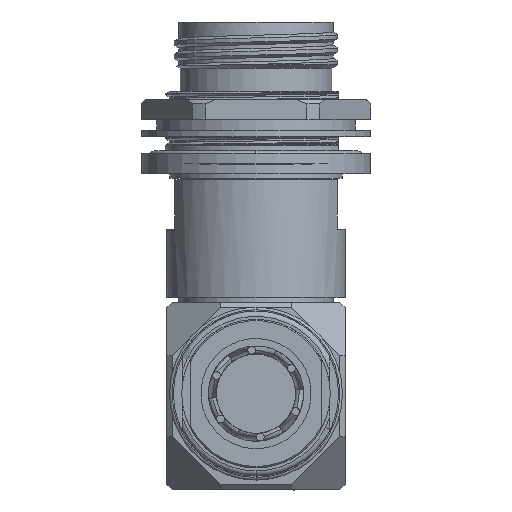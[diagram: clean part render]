
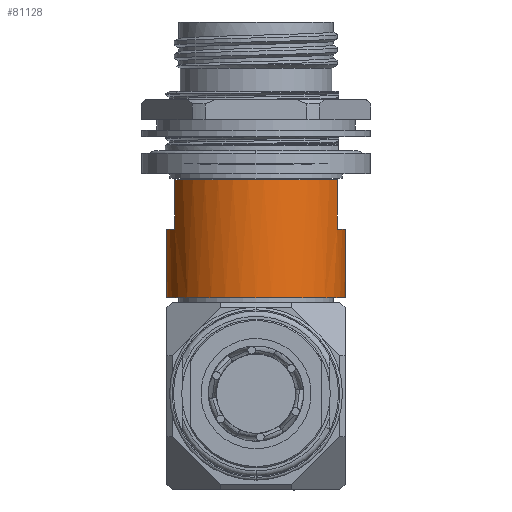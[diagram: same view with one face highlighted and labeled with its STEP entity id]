
A CAD part, front view. The second image highlights one B-rep face of the part: STEP entity #81128.
In plain terms, the highlighted cylindrical face has radius 17.272 mm (diameter 34.544 mm), a partial arc.
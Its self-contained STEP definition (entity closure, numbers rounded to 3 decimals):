
#4604 = AXIS2_PLACEMENT_3D ( 'NONE', #91089, #73992, #89895 ) ;
#7736 = DIRECTION ( 'NONE',  ( 0., 0., 1. ) ) ;
#8247 = EDGE_CURVE ( 'NONE', #30348, #115791, #36387, .T. ) ;
#8256 = CIRCLE ( 'NONE', #25831, 17.272 ) ;
#9336 = CARTESIAN_POINT ( 'NONE',  ( 17.272, 0., -30.328 ) ) ;
#9588 = VERTEX_POINT ( 'NONE', #95123 ) ;
#10386 = AXIS2_PLACEMENT_3D ( 'NONE', #29880, #51162, #115123 ) ;
#14948 = EDGE_LOOP ( 'NONE', ( #92522, #55686, #21655, #38352, #92245, #88362, #66014, #32770 ) ) ;
#16470 = VERTEX_POINT ( 'NONE', #30967 ) ;
#19265 = LINE ( 'NONE', #100908, #111581 ) ;
#20765 = EDGE_CURVE ( 'NONE', #9588, #53438, #8256, .T. ) ;
#21655 = ORIENTED_EDGE ( 'NONE', *, *, #32849, .F. ) ;
#25831 = AXIS2_PLACEMENT_3D ( 'NONE', #29839, #115078, #103556 ) ;
#26136 = CARTESIAN_POINT ( 'NONE',  ( -15.621, -7.369, -39.853 ) ) ;
#26171 = VERTEX_POINT ( 'NONE', #26136 ) ;
#26323 = CARTESIAN_POINT ( 'NONE',  ( 15.621, -7.369, -39.853 ) ) ;
#29839 = CARTESIAN_POINT ( 'NONE',  ( 0., 0., -30.328 ) ) ;
#29842 = DIRECTION ( 'NONE',  ( 0., 0., -1. ) ) ;
#29880 = CARTESIAN_POINT ( 'NONE',  ( 0., 0., -39.853 ) ) ;
#30348 = VERTEX_POINT ( 'NONE', #95139 ) ;
#30967 = CARTESIAN_POINT ( 'NONE',  ( 17.272, 0., -53.01 ) ) ;
#31013 = EDGE_CURVE ( 'NONE', #9588, #89710, #38323, .T. ) ;
#31758 = EDGE_CURVE ( 'NONE', #30348, #26171, #109662, .T. ) ;
#32770 = ORIENTED_EDGE ( 'NONE', *, *, #68761, .F. ) ;
#32849 = EDGE_CURVE ( 'NONE', #16470, #115791, #35743, .T. ) ;
#35743 = CIRCLE ( 'NONE', #86259, 17.272 ) ;
#36387 = LINE ( 'NONE', #73544, #55975 ) ;
#38323 = LINE ( 'NONE', #113221, #72681 ) ;
#38352 = ORIENTED_EDGE ( 'NONE', *, *, #66959, .F. ) ;
#39155 = DIRECTION ( 'NONE',  ( 0., 0., -1. ) ) ;
#39521 = DIRECTION ( 'NONE',  ( 0., 0., -1. ) ) ;
#45065 = CARTESIAN_POINT ( 'NONE',  ( -15.621, -7.369, -30.328 ) ) ;
#51162 = DIRECTION ( 'NONE',  ( 0., 0., 1. ) ) ;
#51882 = DIRECTION ( 'NONE',  ( 0., 0., -1. ) ) ;
#53438 = VERTEX_POINT ( 'NONE', #45065 ) ;
#55686 = ORIENTED_EDGE ( 'NONE', *, *, #8247, .T. ) ;
#55975 = VECTOR ( 'NONE', #110699, 1000. ) ;
#58464 = DIRECTION ( 'NONE',  ( 1., 0., 0. ) ) ;
#62901 = CIRCLE ( 'NONE', #10386, 17.272 ) ;
#65421 = VERTEX_POINT ( 'NONE', #110286 ) ;
#66014 = ORIENTED_EDGE ( 'NONE', *, *, #20765, .T. ) ;
#66959 = EDGE_CURVE ( 'NONE', #65421, #16470, #104330, .T. ) ;
#68761 = EDGE_CURVE ( 'NONE', #26171, #53438, #19265, .T. ) ;
#68814 = VECTOR ( 'NONE', #39155, 1000. ) ;
#70280 = EDGE_CURVE ( 'NONE', #89710, #65421, #62901, .T. ) ;
#72681 = VECTOR ( 'NONE', #39521, 1000. ) ;
#73544 = CARTESIAN_POINT ( 'NONE',  ( -17.272, 0., -30.328 ) ) ;
#73992 = DIRECTION ( 'NONE',  ( 0., 0., 1. ) ) ;
#76739 = CARTESIAN_POINT ( 'NONE',  ( 0., 0., -30.328 ) ) ;
#77934 = CYLINDRICAL_SURFACE ( 'NONE', #92726, 17.272 ) ;
#81128 = ADVANCED_FACE ( 'NONE', ( #119430 ), #77934, .T. ) ;
#86259 = AXIS2_PLACEMENT_3D ( 'NONE', #98773, #51882, #89648 ) ;
#88362 = ORIENTED_EDGE ( 'NONE', *, *, #31013, .F. ) ;
#89648 = DIRECTION ( 'NONE',  ( 1., 0., 0. ) ) ;
#89710 = VERTEX_POINT ( 'NONE', #26323 ) ;
#89895 = DIRECTION ( 'NONE',  ( 1., 0., 0. ) ) ;
#91089 = CARTESIAN_POINT ( 'NONE',  ( 0., 0., -39.853 ) ) ;
#92245 = ORIENTED_EDGE ( 'NONE', *, *, #70280, .F. ) ;
#92522 = ORIENTED_EDGE ( 'NONE', *, *, #31758, .F. ) ;
#92726 = AXIS2_PLACEMENT_3D ( 'NONE', #76739, #29842, #58464 ) ;
#95123 = CARTESIAN_POINT ( 'NONE',  ( 15.621, -7.369, -30.328 ) ) ;
#95139 = CARTESIAN_POINT ( 'NONE',  ( -17.272, 0., -39.853 ) ) ;
#98773 = CARTESIAN_POINT ( 'NONE',  ( 0., 0., -53.01 ) ) ;
#100908 = CARTESIAN_POINT ( 'NONE',  ( -15.621, -7.369, -30.328 ) ) ;
#103556 = DIRECTION ( 'NONE',  ( 1., 0., 0. ) ) ;
#103605 = CARTESIAN_POINT ( 'NONE',  ( -17.272, 0., -53.01 ) ) ;
#104330 = LINE ( 'NONE', #9336, #68814 ) ;
#109662 = CIRCLE ( 'NONE', #4604, 17.272 ) ;
#110286 = CARTESIAN_POINT ( 'NONE',  ( 17.272, 0., -39.853 ) ) ;
#110699 = DIRECTION ( 'NONE',  ( 0., 0., -1. ) ) ;
#111581 = VECTOR ( 'NONE', #7736, 1000. ) ;
#113221 = CARTESIAN_POINT ( 'NONE',  ( 15.621, -7.369, -30.328 ) ) ;
#115078 = DIRECTION ( 'NONE',  ( 0., 0., -1. ) ) ;
#115123 = DIRECTION ( 'NONE',  ( 1., 0., 0. ) ) ;
#115791 = VERTEX_POINT ( 'NONE', #103605 ) ;
#119430 = FACE_OUTER_BOUND ( 'NONE', #14948, .T. ) ;
